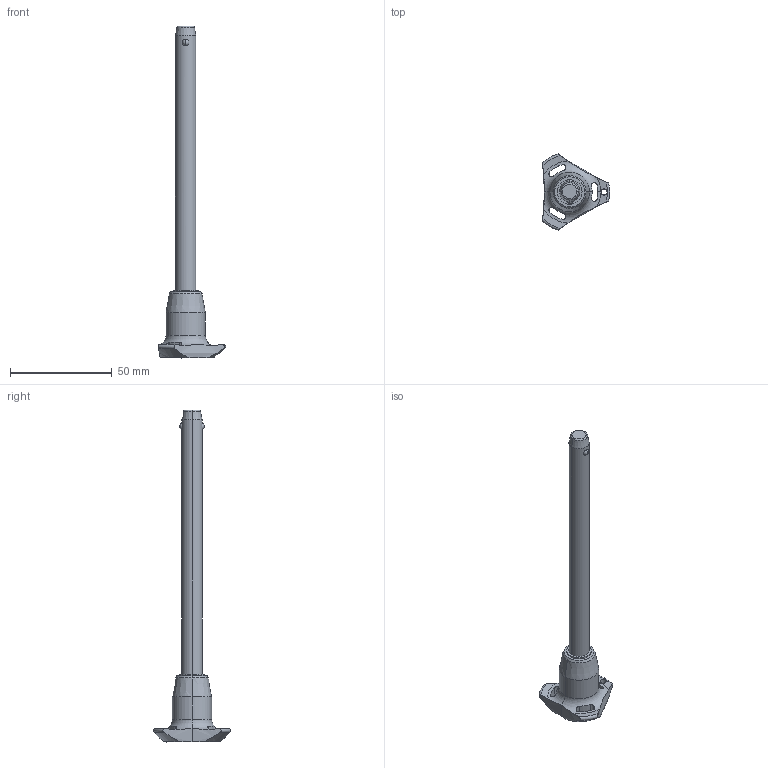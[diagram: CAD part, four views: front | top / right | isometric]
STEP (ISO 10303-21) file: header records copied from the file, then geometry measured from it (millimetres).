
FILE_DESCRIPTION (( 'STEP AP203' ), '1' );
FILE_NAME ('QR1734.M10-120-S.step', '2025-11-12T14:28:52', ( '' ), ( '' ), 'SwSTEP 2.0', 'SolidWorks 2019', '' );
FILE_SCHEMA (( 'CONFIG_CONTROL_DESIGN' ));
Length unit declared in the file: millimetre
Products named in the file (1): QR1734.M10-120-S
Bounding box: 33 x 37.51 x 162.9 mm (x, y, z)
Volume: 20504.7 mm3; surface area: 7934.3 mm2
Topology: 1 solids, 1 shells, 65 faces, 174 edges, 109 vertices
Faces by surface type: cylinder 30, cone 14, torus 11, sphere 6, plane 4
Entity records: 2758 total; most frequent: CARTESIAN_POINT 1085, ORIENTED_EDGE 348, DIRECTION 331, EDGE_CURVE 174, AXIS2_PLACEMENT_3D 147, VERTEX_POINT 109, CIRCLE 81, EDGE_LOOP 71
